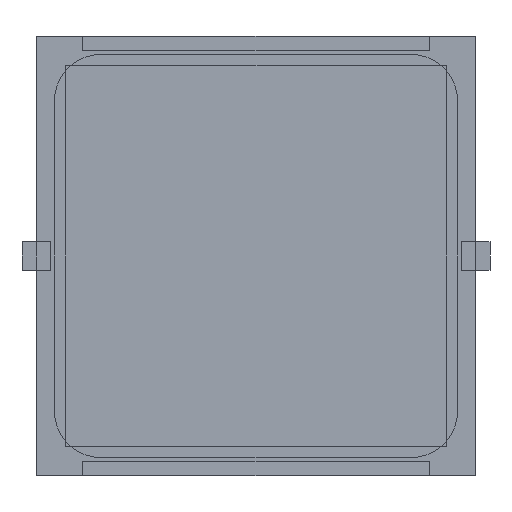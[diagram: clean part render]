
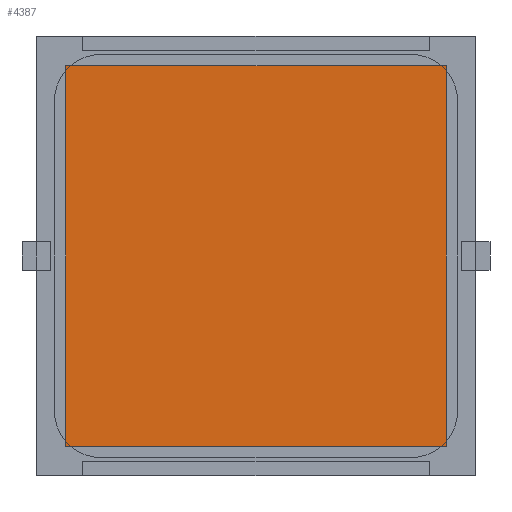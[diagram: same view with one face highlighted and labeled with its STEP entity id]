
A CAD part, front view. The second image highlights one B-rep face of the part: STEP entity #4387.
In plain terms, the highlighted planar face has unit normal (0, -1, 0).
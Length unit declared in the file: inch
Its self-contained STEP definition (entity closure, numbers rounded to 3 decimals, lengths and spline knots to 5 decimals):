
#32 = EDGE_CURVE ( 'NONE', #5257, #2150, #3459, .T. ) ;
#104 = CARTESIAN_POINT ( 'NONE',  ( 0.5315, -0.005, 0.5315 ) ) ;
#444 = EDGE_LOOP ( 'NONE', ( #4308, #4355, #7370, #1665 ) ) ;
#1163 = VECTOR ( 'NONE', #5972, 39.37008 ) ;
#1168 = DIRECTION ( 'NONE',  ( 1., 0., 0. ) ) ;
#1185 = EDGE_CURVE ( 'NONE', #4715, #5381, #4813, .T. ) ;
#1309 = VECTOR ( 'NONE', #1168, 39.37008 ) ;
#1665 = ORIENTED_EDGE ( 'NONE', *, *, #32, .T. ) ;
#1752 = CARTESIAN_POINT ( 'NONE',  ( 0.5315, -0.005, 0.5315 ) ) ;
#2099 = AXIS2_PLACEMENT_3D ( 'NONE', #3317, #7573, #3276 ) ;
#2150 = VERTEX_POINT ( 'NONE', #6583 ) ;
#3033 = VECTOR ( 'NONE', #5145, 39.37008 ) ;
#3276 = DIRECTION ( 'NONE',  ( 0., 0., 1. ) ) ;
#3317 = CARTESIAN_POINT ( 'NONE',  ( 0.5315, -0.005, 0.5315 ) ) ;
#3330 = CARTESIAN_POINT ( 'NONE',  ( 0.5315, -0.005, -0.5315 ) ) ;
#3395 = VECTOR ( 'NONE', #7820, 39.37008 ) ;
#3453 = LINE ( 'NONE', #3330, #3033 ) ;
#3459 = LINE ( 'NONE', #4712, #1309 ) ;
#3671 = CARTESIAN_POINT ( 'NONE',  ( -0.5315, -0.005, -0.5315 ) ) ;
#4283 = PLANE ( 'NONE',  #2099 ) ;
#4308 = ORIENTED_EDGE ( 'NONE', *, *, #7218, .T. ) ;
#4322 = CARTESIAN_POINT ( 'NONE',  ( -0.5315, -0.005, -0.5315 ) ) ;
#4355 = ORIENTED_EDGE ( 'NONE', *, *, #1185, .T. ) ;
#4387 = ADVANCED_FACE ( 'NONE', ( #4776 ), #4283, .T. ) ;
#4712 = CARTESIAN_POINT ( 'NONE',  ( 0.5315, -0.005, -0.5315 ) ) ;
#4715 = VERTEX_POINT ( 'NONE', #104 ) ;
#4776 = FACE_OUTER_BOUND ( 'NONE', #444, .T. ) ;
#4813 = LINE ( 'NONE', #1752, #1163 ) ;
#5145 = DIRECTION ( 'NONE',  ( 0., 0., 1. ) ) ;
#5257 = VERTEX_POINT ( 'NONE', #3671 ) ;
#5381 = VERTEX_POINT ( 'NONE', #6840 ) ;
#5807 = EDGE_CURVE ( 'NONE', #5381, #5257, #6652, .T. ) ;
#5972 = DIRECTION ( 'NONE',  ( -1., 0., 0. ) ) ;
#6583 = CARTESIAN_POINT ( 'NONE',  ( 0.5315, -0.005, -0.5315 ) ) ;
#6652 = LINE ( 'NONE', #4322, #3395 ) ;
#6840 = CARTESIAN_POINT ( 'NONE',  ( -0.5315, -0.005, 0.5315 ) ) ;
#7218 = EDGE_CURVE ( 'NONE', #2150, #4715, #3453, .T. ) ;
#7370 = ORIENTED_EDGE ( 'NONE', *, *, #5807, .T. ) ;
#7573 = DIRECTION ( 'NONE',  ( 0., -1., 0. ) ) ;
#7820 = DIRECTION ( 'NONE',  ( 0., 0., -1. ) ) ;
